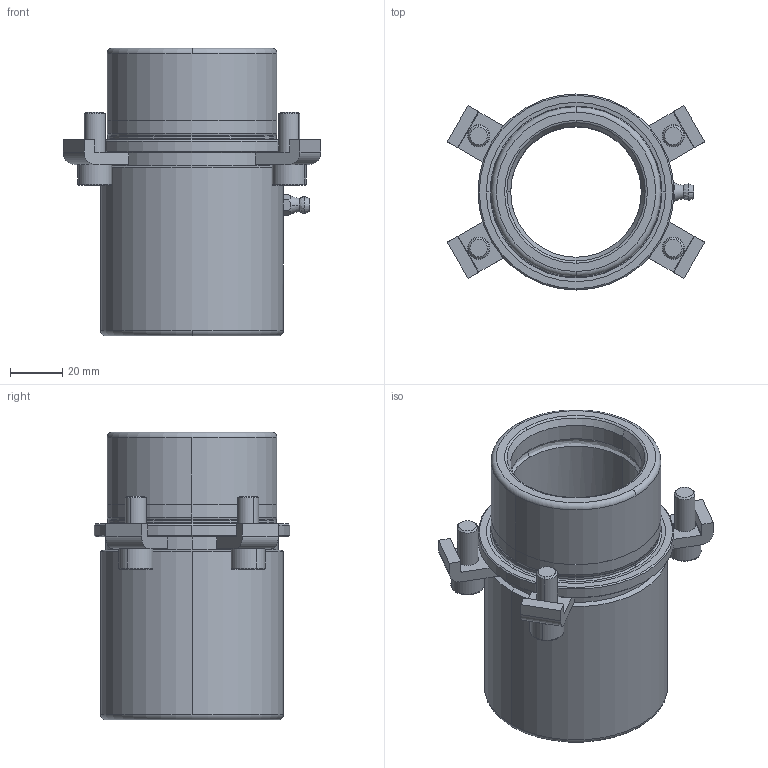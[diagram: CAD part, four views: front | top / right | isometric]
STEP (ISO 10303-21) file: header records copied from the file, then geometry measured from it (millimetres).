
FILE_DESCRIPTION((''),'2;1');
FILE_NAME('B10_050_075.stp','2008-11-06T09:05:07',(''),(''),'Mechanical Desktop 2009','Mechanical Desktop 2009',', , ');
FILE_SCHEMA(('CONFIG_CONTROL_DESIGN'));
Length unit declared in the file: millimetre
Products named in the file (2): Product; blmdl1
Assembly tree (1 placements, depth 2):
  Product
    blmdl1
Bounding box: 98.54 x 75 x 110 mm (x, y, z)
Volume: 200328.8 mm3; surface area: 55587.2 mm2
Topology: 10 solids, 10 shells, 202 faces, 505 edges, 332 vertices
Faces by surface type: plane 82, cylinder 60, cone 24, bspline 18, torus 18
Entity records: 7380 total; most frequent: CARTESIAN_POINT 2302, DIRECTION 1111, ORIENTED_EDGE 1002, EDGE_CURVE 501, AXIS2_PLACEMENT_3D 441, VERTEX_POINT 330, CIRCLE 255, VECTOR 229
